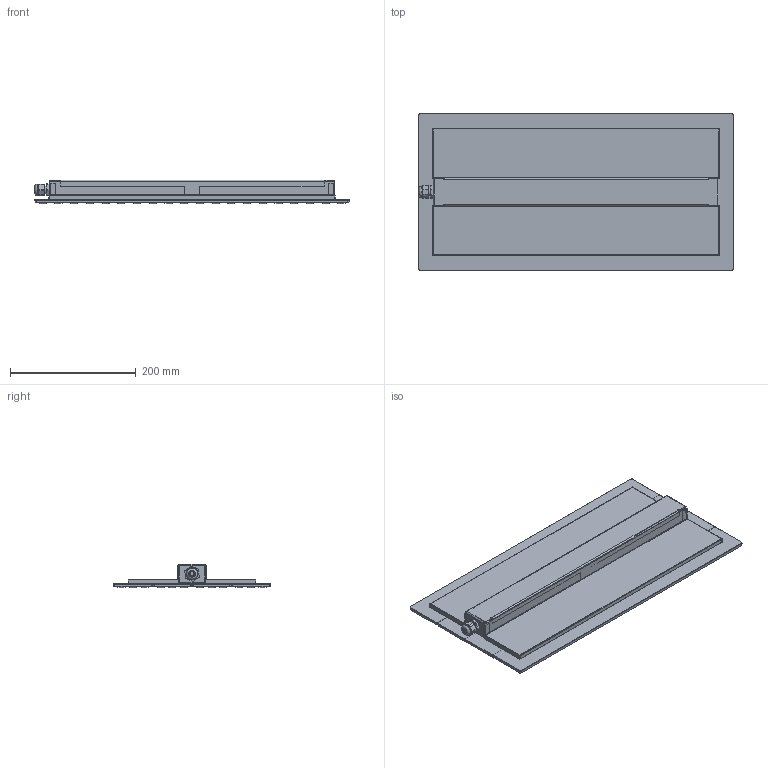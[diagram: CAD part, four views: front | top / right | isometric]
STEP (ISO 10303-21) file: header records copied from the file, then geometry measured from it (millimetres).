
FILE_DESCRIPTION(/* description */ (''),/* implementation_level */ '2;1');
FILE_NAME(/* name */ 'SOTTILE_R_SO4.stp',/* time_stamp */ '2025-09-22T14:01:12+02:00',/* author */ ('gian.noche'),/* organization */ (''),/* preprocessor_version */ 'ST-DEVELOPER v19.2',/* originating_system */ 'Autodesk Inventor 2023',/* authorisation */ '');
FILE_SCHEMA (('AUTOMOTIVE_DESIGN { 1 0 10303 214 3 1 1 }'));
Length unit declared in the file: millimetre
Products named in the file (1): PLIKE_4_Rev01_Semplifica_1
Bounding box: 500.3 x 249.5 x 37.9 mm (x, y, z)
Volume: 727168.1 mm3; surface area: 530300.2 mm2
Topology: 1 solids, 4 shells, 1282 faces, 2724 edges, 1697 vertices
Faces by surface type: cylinder 522, plane 381, sphere 240, bspline 118, torus 17, cone 4
Full cylindrical faces by diameter (mm): 6.5 x1, 7 x1, 8.5 x3, 11.5 x1, 12 x1, 15 x225, 15.8 x1, 17.8 x1
Entity records: 42324 total; most frequent: CARTESIAN_POINT 14024, DIRECTION 6274, ORIENTED_EDGE 5448, EDGE_CURVE 2724, AXIS2_PLACEMENT_3D 2475, VERTEX_POINT 1697, EDGE_LOOP 1559, LINE 1324
